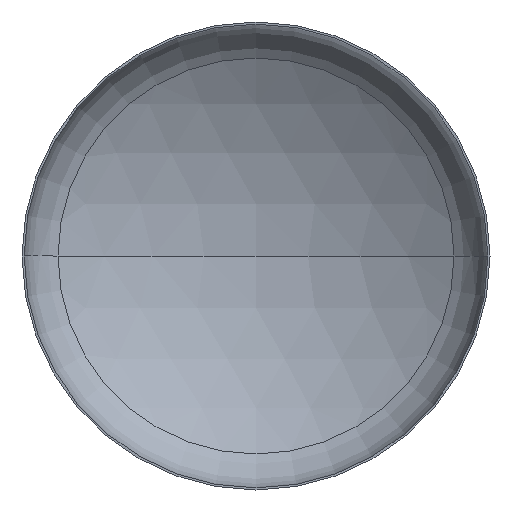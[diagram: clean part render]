
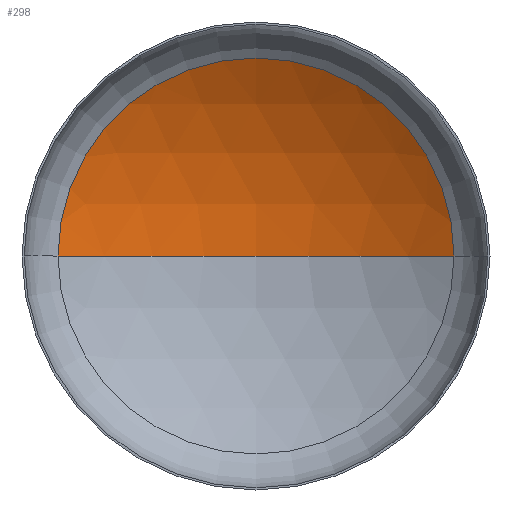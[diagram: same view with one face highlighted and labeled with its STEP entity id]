
A CAD part, front view. The second image highlights one B-rep face of the part: STEP entity #298.
In plain terms, the highlighted spherical face has radius 4400 mm.
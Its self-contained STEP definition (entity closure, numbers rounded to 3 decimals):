
#12 = DIRECTION ( 'NONE',  ( -1., 0., 0. ) ) ;
#63 = AXIS2_PLACEMENT_3D ( 'NONE', #253, #306, #111 ) ;
#64 = FACE_OUTER_BOUND ( 'NONE', #107, .T. ) ;
#65 = VERTEX_POINT ( 'NONE', #94 ) ;
#93 = ORIENTED_EDGE ( 'NONE', *, *, #184, .T. ) ;
#94 = CARTESIAN_POINT ( 'NONE',  ( 0., 1457.779, 0. ) ) ;
#101 = AXIS2_PLACEMENT_3D ( 'NONE', #143, #135, #115 ) ;
#107 = EDGE_LOOP ( 'NONE', ( #190, #223, #93 ) ) ;
#111 = DIRECTION ( 'NONE',  ( 1., 0., 0. ) ) ;
#115 = DIRECTION ( 'NONE',  ( 1., 0., 0. ) ) ;
#135 = DIRECTION ( 'NONE',  ( 0., 0., 1. ) ) ;
#143 = CARTESIAN_POINT ( 'NONE',  ( 0., -2942.221, 0. ) ) ;
#149 = DIRECTION ( 'NONE',  ( 0., 0., -1. ) ) ;
#184 = EDGE_CURVE ( 'NONE', #257, #364, #349, .T. ) ;
#188 = AXIS2_PLACEMENT_3D ( 'NONE', #346, #149, #373 ) ;
#190 = ORIENTED_EDGE ( 'NONE', *, *, #236, .F. ) ;
#216 = CARTESIAN_POINT ( 'NONE',  ( 0., -2942.221, 0. ) ) ;
#223 = ORIENTED_EDGE ( 'NONE', *, *, #392, .T. ) ;
#236 = EDGE_CURVE ( 'NONE', #65, #364, #406, .T. ) ;
#253 = CARTESIAN_POINT ( 'NONE',  ( 0., 792.174, 0. ) ) ;
#257 = VERTEX_POINT ( 'NONE', #302 ) ;
#259 = DIRECTION ( 'NONE',  ( 0., 0., -1. ) ) ;
#260 = CIRCLE ( 'NONE', #188, 4400. ) ;
#298 = ADVANCED_FACE ( 'NONE', ( #64 ), #339, .F. ) ;
#302 = CARTESIAN_POINT ( 'NONE',  ( 2326.864, 792.174, 0. ) ) ;
#306 = DIRECTION ( 'NONE',  ( 0., -1., 0. ) ) ;
#339 = SPHERICAL_SURFACE ( 'NONE', #357, 4400. ) ;
#346 = CARTESIAN_POINT ( 'NONE',  ( 0., -2942.221, 0. ) ) ;
#349 = CIRCLE ( 'NONE', #63, 2326.864 ) ;
#357 = AXIS2_PLACEMENT_3D ( 'NONE', #216, #259, #12 ) ;
#364 = VERTEX_POINT ( 'NONE', #370 ) ;
#370 = CARTESIAN_POINT ( 'NONE',  ( -2326.864, 792.174, 0. ) ) ;
#373 = DIRECTION ( 'NONE',  ( -1., 0., 0. ) ) ;
#392 = EDGE_CURVE ( 'NONE', #65, #257, #260, .T. ) ;
#406 = CIRCLE ( 'NONE', #101, 4400. ) ;
